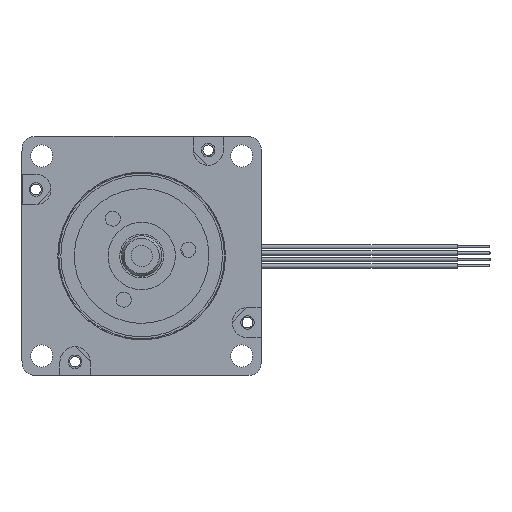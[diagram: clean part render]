
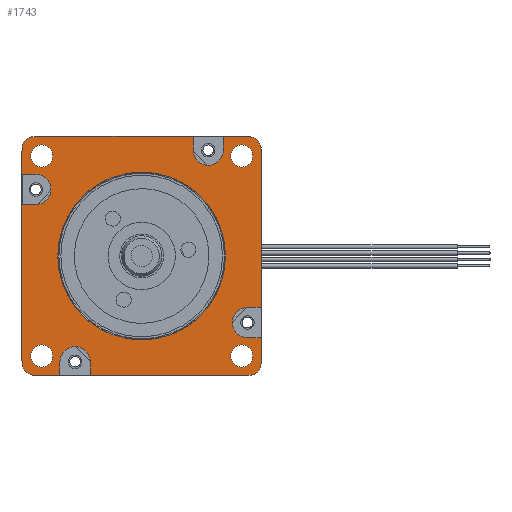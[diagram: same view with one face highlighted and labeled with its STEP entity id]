
A CAD part, left-side view. The second image highlights one B-rep face of the part: STEP entity #1743.
In plain terms, the highlighted planar face has unit normal (-1, 0, 0).
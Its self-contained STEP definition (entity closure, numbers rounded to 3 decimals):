
#95=CARTESIAN_POINT('',(0.,-24.7,-28.2));
#96=VERTEX_POINT('',#95);
#103=CARTESIAN_POINT('',(0.,24.7,-28.2));
#104=VERTEX_POINT('',#103);
#105=CARTESIAN_POINT('',(0.,-24.7,-28.2));
#106=DIRECTION('',(0.,1.,0.));
#107=VECTOR('',#106,49.4);
#108=LINE('',#105,#107);
#109=EDGE_CURVE('',#96,#104,#108,.T.);
#167=CARTESIAN_POINT('',(0.,28.2,-24.7));
#168=VERTEX_POINT('',#167);
#175=CARTESIAN_POINT('',(0.,28.2,24.7));
#176=VERTEX_POINT('',#175);
#177=CARTESIAN_POINT('',(0.,28.2,-24.7));
#178=DIRECTION('',(0.,0.,1.));
#179=VECTOR('',#178,49.4);
#180=LINE('',#177,#179);
#181=EDGE_CURVE('',#168,#176,#180,.T.);
#239=CARTESIAN_POINT('',(0.,24.7,28.2));
#240=VERTEX_POINT('',#239);
#247=CARTESIAN_POINT('',(0.,-12.135,28.2));
#248=VERTEX_POINT('',#247);
#249=CARTESIAN_POINT('',(0.,24.7,28.2));
#250=DIRECTION('',(0.,-1.,0.));
#251=VECTOR('',#250,36.835);
#252=LINE('',#249,#251);
#253=EDGE_CURVE('',#240,#248,#252,.T.);
#271=CARTESIAN_POINT('',(0.,-19.245,28.2));
#272=VERTEX_POINT('',#271);
#279=CARTESIAN_POINT('',(0.,-24.7,28.2));
#280=VERTEX_POINT('',#279);
#281=CARTESIAN_POINT('',(0.,-19.245,28.2));
#282=DIRECTION('',(0.,-1.,0.));
#283=VECTOR('',#282,5.455);
#284=LINE('',#281,#283);
#285=EDGE_CURVE('',#272,#280,#284,.T.);
#343=CARTESIAN_POINT('',(0.,-28.2,24.7));
#344=VERTEX_POINT('',#343);
#351=CARTESIAN_POINT('',(0.,-28.2,-12.135));
#352=VERTEX_POINT('',#351);
#353=CARTESIAN_POINT('',(0.,-28.2,24.7));
#354=DIRECTION('',(0.,0.,-1.));
#355=VECTOR('',#354,36.835);
#356=LINE('',#353,#355);
#357=EDGE_CURVE('',#344,#352,#356,.T.);
#375=CARTESIAN_POINT('',(0.,-28.2,-19.245));
#376=VERTEX_POINT('',#375);
#383=CARTESIAN_POINT('',(0.,-28.2,-24.7));
#384=VERTEX_POINT('',#383);
#385=CARTESIAN_POINT('',(0.,-28.2,-19.245));
#386=DIRECTION('',(0.,0.,-1.));
#387=VECTOR('',#386,5.455);
#388=LINE('',#385,#387);
#389=EDGE_CURVE('',#376,#384,#388,.T.);
#993=CARTESIAN_POINT('',(0.,24.7,-28.2));
#994=CARTESIAN_POINT('',(0.,28.2,-28.2));
#995=CARTESIAN_POINT('',(0.,28.2,-24.7));
#996=B_SPLINE_CURVE_WITH_KNOTS('',2,(#993,#994,#995),.UNSPECIFIED.,.F.,.U.,(3,3),(0.,1.),.UNSPECIFIED.);
#997=EDGE_CURVE('',#104,#168,#996,.T.);
#1012=CARTESIAN_POINT('',(0.,28.2,24.7));
#1013=CARTESIAN_POINT('',(0.,28.2,28.2));
#1014=CARTESIAN_POINT('',(0.,24.7,28.2));
#1015=B_SPLINE_CURVE_WITH_KNOTS('',2,(#1012,#1013,#1014),.UNSPECIFIED.,.F.,.U.,(3,3),(0.,1.),.UNSPECIFIED.);
#1016=EDGE_CURVE('',#176,#240,#1015,.T.);
#1031=CARTESIAN_POINT('',(0.,-24.7,28.2));
#1032=CARTESIAN_POINT('',(0.,-28.2,28.2));
#1033=CARTESIAN_POINT('',(0.,-28.2,24.7));
#1034=B_SPLINE_CURVE_WITH_KNOTS('',2,(#1031,#1032,#1033),.UNSPECIFIED.,.F.,.U.,(3,3),(0.,1.),.UNSPECIFIED.);
#1035=EDGE_CURVE('',#280,#344,#1034,.T.);
#1050=CARTESIAN_POINT('',(0.,-28.2,-24.7));
#1051=CARTESIAN_POINT('',(0.,-28.2,-28.2));
#1052=CARTESIAN_POINT('',(0.,-24.7,-28.2));
#1053=B_SPLINE_CURVE_WITH_KNOTS('',2,(#1050,#1051,#1052),.UNSPECIFIED.,.F.,.U.,(3,3),(0.,1.),.UNSPECIFIED.);
#1054=EDGE_CURVE('',#384,#96,#1053,.T.);
#1217=CARTESIAN_POINT('',(0.,23.57,20.965));
#1218=VERTEX_POINT('',#1217);
#1225=CARTESIAN_POINT('',(0.,23.57,23.57));
#1226=DIRECTION('',(0.,0.,-1.));
#1227=DIRECTION('',(-1.,0.,0.));
#1228=AXIS2_PLACEMENT_3D('',#1225,#1227,#1226);
#1229=CIRCLE('',#1228,2.605);
#1230=EDGE_CURVE('',#1218,#1218,#1229,.T.);
#1242=CARTESIAN_POINT('',(0.,-23.57,20.965));
#1243=VERTEX_POINT('',#1242);
#1250=CARTESIAN_POINT('',(0.,-23.57,23.57));
#1251=DIRECTION('',(0.,0.,-1.));
#1252=DIRECTION('',(-1.,0.,0.));
#1253=AXIS2_PLACEMENT_3D('',#1250,#1252,#1251);
#1254=CIRCLE('',#1253,2.605);
#1255=EDGE_CURVE('',#1243,#1243,#1254,.T.);
#1267=CARTESIAN_POINT('',(0.,23.57,-26.175));
#1268=VERTEX_POINT('',#1267);
#1275=CARTESIAN_POINT('',(0.,23.57,-23.57));
#1276=DIRECTION('',(0.,0.,-1.));
#1277=DIRECTION('',(-1.,0.,0.));
#1278=AXIS2_PLACEMENT_3D('',#1275,#1277,#1276);
#1279=CIRCLE('',#1278,2.605);
#1280=EDGE_CURVE('',#1268,#1268,#1279,.T.);
#1292=CARTESIAN_POINT('',(0.,-23.57,-26.175));
#1293=VERTEX_POINT('',#1292);
#1300=CARTESIAN_POINT('',(0.,-23.57,-23.57));
#1301=DIRECTION('',(0.,0.,-1.));
#1302=DIRECTION('',(-1.,0.,0.));
#1303=AXIS2_PLACEMENT_3D('',#1300,#1302,#1301);
#1304=CIRCLE('',#1303,2.605);
#1305=EDGE_CURVE('',#1293,#1293,#1304,.T.);
#1587=CARTESIAN_POINT('',(0.,0.,0.18));
#1588=DIRECTION('',(0.,-1.,0.));
#1589=DIRECTION('',(-1.,0.,0.));
#1590=AXIS2_PLACEMENT_3D('',#1587,#1589,#1588);
#1591=PLANE('',#1590);
#1592=ORIENTED_EDGE('',*,*,#109,.F.);
#1593=ORIENTED_EDGE('',*,*,#1054,.F.);
#1594=ORIENTED_EDGE('',*,*,#389,.F.);
#1595=CARTESIAN_POINT('',(0.,-24.925,-19.245));
#1596=VERTEX_POINT('',#1595);
#1597=CARTESIAN_POINT('',(0.,-28.2,-19.245));
#1598=DIRECTION('',(0.,1.,0.));
#1599=VECTOR('',#1598,3.275);
#1600=LINE('',#1597,#1599);
#1601=EDGE_CURVE('',#376,#1596,#1600,.T.);
#1602=ORIENTED_EDGE('E144',*,*,#1601,.T.);
#1603=CARTESIAN_POINT('',(0.,-24.925,-12.135));
#1604=VERTEX_POINT('',#1603);
#1605=CARTESIAN_POINT('',(0.,-24.925,-15.69));
#1606=DIRECTION('',(0.,0.,-1.));
#1607=DIRECTION('',(1.,0.,-0.));
#1608=AXIS2_PLACEMENT_3D('',#1605,#1607,#1606);
#1609=CIRCLE('',#1608,3.555);
#1610=EDGE_CURVE('',#1596,#1604,#1609,.T.);
#1611=ORIENTED_EDGE('E145',*,*,#1610,.T.);
#1612=CARTESIAN_POINT('',(0.,-24.925,-12.135));
#1613=DIRECTION('',(0.,-1.,0.));
#1614=VECTOR('',#1613,3.275);
#1615=LINE('',#1612,#1614);
#1616=EDGE_CURVE('',#1604,#352,#1615,.T.);
#1617=ORIENTED_EDGE('E146',*,*,#1616,.T.);
#1618=ORIENTED_EDGE('E146',*,*,#357,.F.);
#1619=ORIENTED_EDGE('E146',*,*,#1035,.F.);
#1620=ORIENTED_EDGE('E146',*,*,#285,.F.);
#1621=CARTESIAN_POINT('',(0.,-19.245,24.925));
#1622=VERTEX_POINT('',#1621);
#1623=CARTESIAN_POINT('',(0.,-19.245,28.2));
#1624=DIRECTION('',(0.,0.,-1.));
#1625=VECTOR('',#1624,3.275);
#1626=LINE('',#1623,#1625);
#1627=EDGE_CURVE('',#272,#1622,#1626,.T.);
#1628=ORIENTED_EDGE('E147',*,*,#1627,.T.);
#1629=CARTESIAN_POINT('',(0.,-12.135,24.925));
#1630=VERTEX_POINT('',#1629);
#1631=CARTESIAN_POINT('',(0.,-15.69,24.925));
#1632=DIRECTION('',(0.,-1.,0.));
#1633=DIRECTION('',(1.,-0.,0.));
#1634=AXIS2_PLACEMENT_3D('',#1631,#1633,#1632);
#1635=CIRCLE('',#1634,3.555);
#1636=EDGE_CURVE('',#1622,#1630,#1635,.T.);
#1637=ORIENTED_EDGE('E148',*,*,#1636,.T.);
#1638=CARTESIAN_POINT('',(0.,-12.135,24.925));
#1639=DIRECTION('',(0.,0.,1.));
#1640=VECTOR('',#1639,3.275);
#1641=LINE('',#1638,#1640);
#1642=EDGE_CURVE('',#1630,#248,#1641,.T.);
#1643=ORIENTED_EDGE('E149',*,*,#1642,.T.);
#1644=ORIENTED_EDGE('E149',*,*,#253,.F.);
#1645=ORIENTED_EDGE('E149',*,*,#1016,.F.);
#1646=ORIENTED_EDGE('E149',*,*,#181,.F.);
#1647=ORIENTED_EDGE('E149',*,*,#997,.F.);
#1648=EDGE_LOOP('',(#1592,#1593,#1594,#1602,#1611,#1617,#1618,#1619,#1620,#1628,#1637,#1643,#1644,#1645,#1646,#1647));
#1649=FACE_OUTER_BOUND('',#1648,.T.);
#1650=CARTESIAN_POINT('',(0.001,-19.75,0.));
#1651=VERTEX_POINT('',#1650);
#1652=CARTESIAN_POINT('',(0.003,0.,0.));
#1653=DIRECTION('',(0.,-1.,0.));
#1654=DIRECTION('',(1.,0.,0.));
#1655=AXIS2_PLACEMENT_3D('',#1652,#1654,#1653);
#1656=CIRCLE('',#1655,19.75);
#1657=EDGE_CURVE('',#1651,#1651,#1656,.T.);
#1658=ORIENTED_EDGE('E150',*,*,#1657,.T.);
#1659=EDGE_LOOP('',(#1658));
#1660=FACE_BOUND('',#1659,.T.);
#1661=ORIENTED_EDGE('',*,*,#1305,.F.);
#1662=EDGE_LOOP('',(#1661));
#1663=FACE_BOUND('',#1662,.T.);
#1664=ORIENTED_EDGE('',*,*,#1255,.F.);
#1665=EDGE_LOOP('',(#1664));
#1666=FACE_BOUND('',#1665,.T.);
#1667=ORIENTED_EDGE('',*,*,#1230,.F.);
#1668=EDGE_LOOP('',(#1667));
#1669=FACE_BOUND('',#1668,.T.);
#1670=ORIENTED_EDGE('',*,*,#1280,.F.);
#1671=EDGE_LOOP('',(#1670));
#1672=FACE_BOUND('',#1671,.T.);
#1673=CARTESIAN_POINT('',(0.,19.245,-24.925));
#1674=VERTEX_POINT('',#1673);
#1675=CARTESIAN_POINT('',(0.,12.135,-24.925));
#1676=VERTEX_POINT('',#1675);
#1677=CARTESIAN_POINT('',(0.,15.69,-24.925));
#1678=DIRECTION('',(0.,1.,0.));
#1679=DIRECTION('',(1.,0.,0.));
#1680=AXIS2_PLACEMENT_3D('',#1677,#1679,#1678);
#1681=CIRCLE('',#1680,3.555);
#1682=EDGE_CURVE('',#1674,#1676,#1681,.T.);
#1683=ORIENTED_EDGE('E151',*,*,#1682,.T.);
#1684=CARTESIAN_POINT('',(0.,12.135,-28.13));
#1685=VERTEX_POINT('',#1684);
#1686=CARTESIAN_POINT('',(0.,12.135,-24.925));
#1687=DIRECTION('',(0.,0.,-1.));
#1688=VECTOR('',#1687,3.205);
#1689=LINE('',#1686,#1688);
#1690=EDGE_CURVE('',#1676,#1685,#1689,.T.);
#1691=ORIENTED_EDGE('E152',*,*,#1690,.T.);
#1692=CARTESIAN_POINT('',(0.,19.245,-28.13));
#1693=VERTEX_POINT('',#1692);
#1694=CARTESIAN_POINT('',(0.,12.135,-28.13));
#1695=DIRECTION('',(0.,1.,0.));
#1696=VECTOR('',#1695,7.11);
#1697=LINE('',#1694,#1696);
#1698=EDGE_CURVE('',#1685,#1693,#1697,.T.);
#1699=ORIENTED_EDGE('E153',*,*,#1698,.T.);
#1700=CARTESIAN_POINT('',(0.,19.245,-28.13));
#1701=DIRECTION('',(0.,0.,1.));
#1702=VECTOR('',#1701,3.205);
#1703=LINE('',#1700,#1702);
#1704=EDGE_CURVE('',#1693,#1674,#1703,.T.);
#1705=ORIENTED_EDGE('E154',*,*,#1704,.T.);
#1706=EDGE_LOOP('',(#1683,#1691,#1699,#1705));
#1707=FACE_BOUND('',#1706,.T.);
#1708=CARTESIAN_POINT('',(0.,28.13,19.245));
#1709=VERTEX_POINT('',#1708);
#1710=CARTESIAN_POINT('',(0.,24.925,19.245));
#1711=VERTEX_POINT('',#1710);
#1712=CARTESIAN_POINT('',(0.,28.13,19.245));
#1713=DIRECTION('',(0.,-1.,0.));
#1714=VECTOR('',#1713,3.205);
#1715=LINE('',#1712,#1714);
#1716=EDGE_CURVE('',#1709,#1711,#1715,.T.);
#1717=ORIENTED_EDGE('E155',*,*,#1716,.T.);
#1718=CARTESIAN_POINT('',(0.,24.925,12.135));
#1719=VERTEX_POINT('',#1718);
#1720=CARTESIAN_POINT('',(0.,24.925,15.69));
#1721=DIRECTION('',(0.,0.,1.));
#1722=DIRECTION('',(1.,0.,0.));
#1723=AXIS2_PLACEMENT_3D('',#1720,#1722,#1721);
#1724=CIRCLE('',#1723,3.555);
#1725=EDGE_CURVE('',#1711,#1719,#1724,.T.);
#1726=ORIENTED_EDGE('E156',*,*,#1725,.T.);
#1727=CARTESIAN_POINT('',(0.,28.13,12.135));
#1728=VERTEX_POINT('',#1727);
#1729=CARTESIAN_POINT('',(0.,24.925,12.135));
#1730=DIRECTION('',(0.,1.,0.));
#1731=VECTOR('',#1730,3.205);
#1732=LINE('',#1729,#1731);
#1733=EDGE_CURVE('',#1719,#1728,#1732,.T.);
#1734=ORIENTED_EDGE('E157',*,*,#1733,.T.);
#1735=CARTESIAN_POINT('',(0.,28.13,12.135));
#1736=DIRECTION('',(0.,0.,1.));
#1737=VECTOR('',#1736,7.11);
#1738=LINE('',#1735,#1737);
#1739=EDGE_CURVE('',#1728,#1709,#1738,.T.);
#1740=ORIENTED_EDGE('E158',*,*,#1739,.T.);
#1741=EDGE_LOOP('',(#1717,#1726,#1734,#1740));
#1742=FACE_BOUND('',#1741,.T.);
#1743=ADVANCED_FACE('F47',(#1649,#1660,#1663,#1666,#1669,#1672,#1707,#1742),#1591,.T.);
